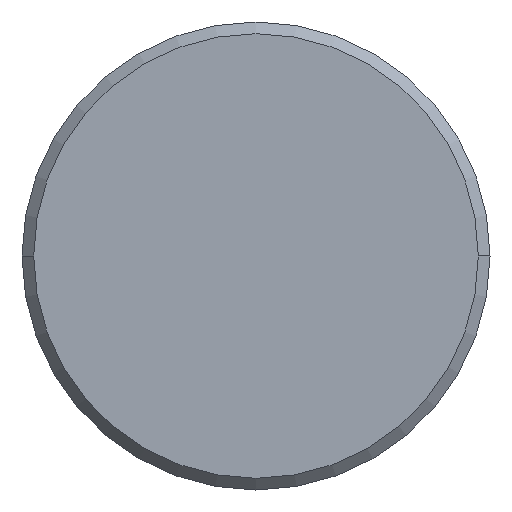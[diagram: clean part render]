
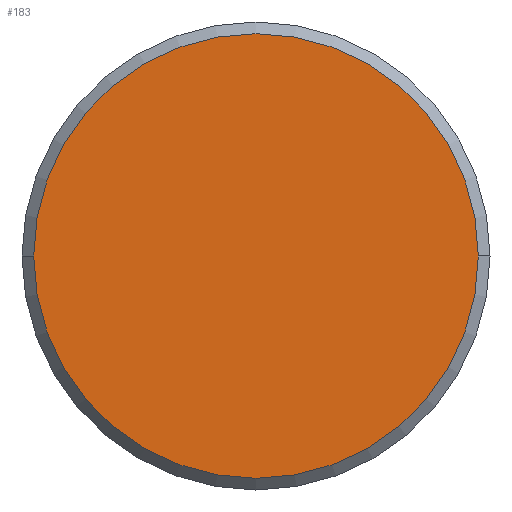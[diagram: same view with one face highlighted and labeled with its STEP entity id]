
A CAD part, left-side view. The second image highlights one B-rep face of the part: STEP entity #183.
In plain terms, the highlighted planar face has unit normal (-1, 0, 0).
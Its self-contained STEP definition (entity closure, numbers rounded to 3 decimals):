
#18 = CARTESIAN_POINT ( 'NONE',  ( -56., 0., 0. ) ) ;
#51 = AXIS2_PLACEMENT_3D ( 'NONE', #18, #206, #277 ) ;
#72 = CARTESIAN_POINT ( 'NONE',  ( -56., -5.7, 0. ) ) ;
#80 = EDGE_CURVE ( 'NONE', #174, #105, #345, .T. ) ;
#93 = DIRECTION ( 'NONE',  ( 0., 1., 0. ) ) ;
#105 = VERTEX_POINT ( 'NONE', #72 ) ;
#114 = EDGE_CURVE ( 'NONE', #105, #174, #122, .T. ) ;
#119 = CARTESIAN_POINT ( 'NONE',  ( -56., 0., 0. ) ) ;
#122 = CIRCLE ( 'NONE', #281, 5.7 ) ;
#149 = CARTESIAN_POINT ( 'NONE',  ( -56., 0., 0. ) ) ;
#169 = AXIS2_PLACEMENT_3D ( 'NONE', #149, #296, #194 ) ;
#174 = VERTEX_POINT ( 'NONE', #231 ) ;
#179 = EDGE_LOOP ( 'NONE', ( #226, #241 ) ) ;
#183 = ADVANCED_FACE ( 'NONE', ( #325 ), #251, .T. ) ;
#194 = DIRECTION ( 'NONE',  ( 0., 1., 0. ) ) ;
#206 = DIRECTION ( 'NONE',  ( -1., 0., 0. ) ) ;
#226 = ORIENTED_EDGE ( 'NONE', *, *, #80, .F. ) ;
#231 = CARTESIAN_POINT ( 'NONE',  ( -56., 5.7, 0. ) ) ;
#241 = ORIENTED_EDGE ( 'NONE', *, *, #114, .F. ) ;
#251 = PLANE ( 'NONE',  #51 ) ;
#266 = DIRECTION ( 'NONE',  ( 1., 0., 0. ) ) ;
#277 = DIRECTION ( 'NONE',  ( 0., -1., 0. ) ) ;
#281 = AXIS2_PLACEMENT_3D ( 'NONE', #119, #266, #93 ) ;
#296 = DIRECTION ( 'NONE',  ( 1., 0., 0. ) ) ;
#325 = FACE_OUTER_BOUND ( 'NONE', #179, .T. ) ;
#345 = CIRCLE ( 'NONE', #169, 5.7 ) ;
